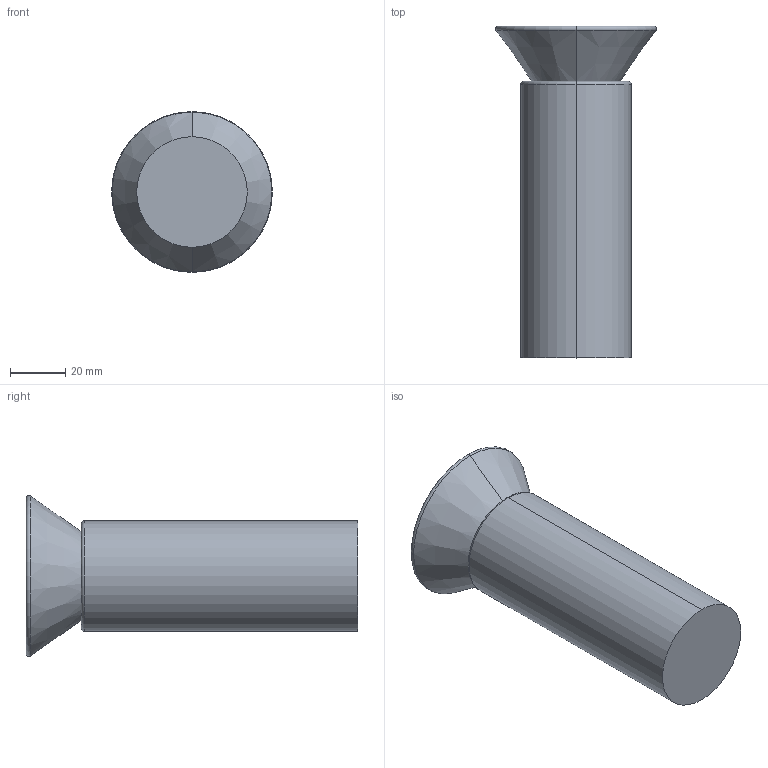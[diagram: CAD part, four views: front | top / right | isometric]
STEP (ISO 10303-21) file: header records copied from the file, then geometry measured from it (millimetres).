
FILE_DESCRIPTION (( 'STEP AP214' ), '1' );
FILE_NAME ('T0336.STEP', '2026-08-28T09:24:49', ( '' ), ( '' ), 'SwSTEP 2.0', 'SolidWorks 2023', '' );
FILE_SCHEMA (( 'AUTOMOTIVE_DESIGN' ));
Length unit declared in the file: millimetre
Products named in the file (1): T0336
Bounding box: 58.15 x 120 x 58.15 mm (x, y, z)
Volume: 133436.7 mm3; surface area: 23110.9 mm2
Topology: 2 solids, 2 shells, 16 faces, 28 edges, 16 vertices
Faces by surface type: torus 6, plane 4, cone 4, cylinder 2
Entity records: 422 total; most frequent: DIRECTION 84, CARTESIAN_POINT 61, ORIENTED_EDGE 56, AXIS2_PLACEMENT_3D 39, EDGE_CURVE 28, CIRCLE 22, ADVANCED_FACE 16, FACE_OUTER_BOUND 16
